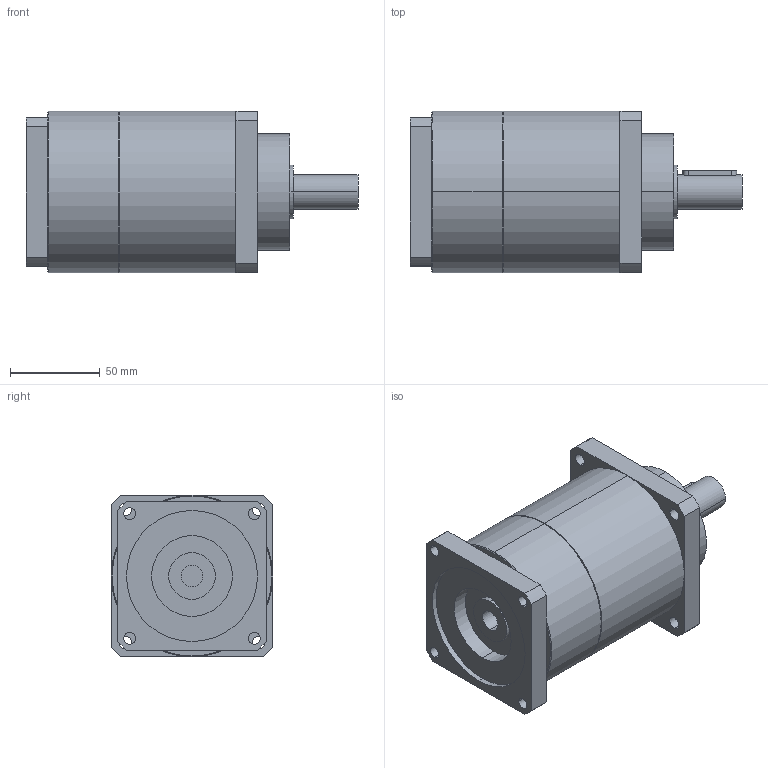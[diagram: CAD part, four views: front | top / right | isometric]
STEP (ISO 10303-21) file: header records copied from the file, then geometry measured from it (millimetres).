
FILE_DESCRIPTION(('CoCreate Modeling STEP Export'),'2;1');
FILE_NAME('GPT90_ig-9-12-16-20-25-28-35-40-50-70-100_19_B5T_12_P05.stp','2015-02-04T11:28:14',(''),(''),'CoCreate Modeling STEP processor for AP214 (Solid Model)','CoCreate Modeling 16.00C 25-Feb-2009 (C) Parametric Technology GmbH','');
FILE_SCHEMA(('AUTOMOTIVE_DESIGN { 1 0 10303 214 1 1 1 1 }'));
Length unit declared in the file: millimetre
Products named in the file (2): GPT90_ig-9-12-16-20-25-28-35-40-50-70-100_19_B5T_12_P05
Assembly tree (1 placements, depth 2):
  GPT90_ig-9-12-16-20-25-28-35-40-50-70-100_19_B5T_12_P05
    GPT90_ig-9-12-16-20-25-28-35-40-50-70-100_19_B5T_12_P05
Bounding box: 185 x 90 x 90 mm (x, y, z)
Volume: 884263.2 mm3; surface area: 67045.4 mm2
Topology: 1 solids, 1 shells, 84 faces, 222 edges, 149 vertices
Faces by surface type: cylinder 46, plane 34, cone 4
Entity records: 2700 total; most frequent: CARTESIAN_POINT 755, ORIENTED_EDGE 444, DIRECTION 330, EDGE_CURVE 222, VERTEX_POINT 149, AXIS2_PLACEMENT_3D 121, EDGE_LOOP 109, VECTOR 88
